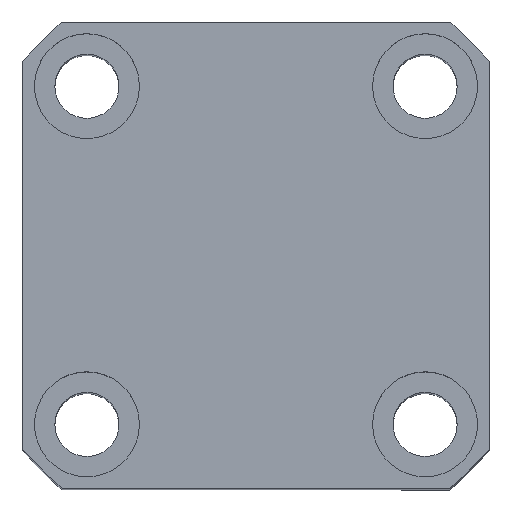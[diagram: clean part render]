
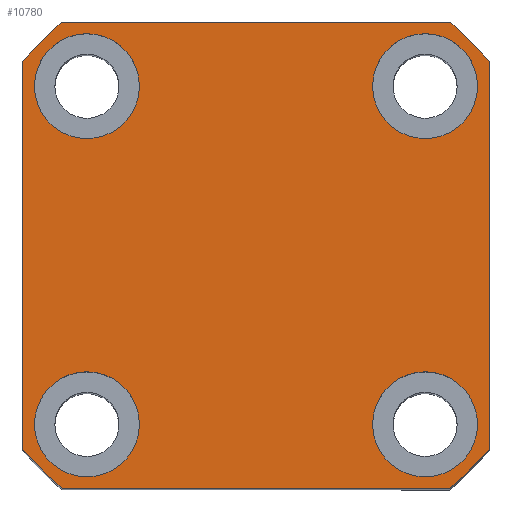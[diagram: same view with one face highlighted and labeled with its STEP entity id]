
A CAD part, top view. The second image highlights one B-rep face of the part: STEP entity #10780.
In plain terms, the highlighted planar face has unit normal (0, 0, 1).
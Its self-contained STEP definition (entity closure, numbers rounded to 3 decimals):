
#133 = EDGE_CURVE ( 'NONE', #10712, #574, #8048, .T. ) ;
#215 = CIRCLE ( 'NONE', #4218, 9. ) ;
#328 = CIRCLE ( 'NONE', #3765, 52. ) ;
#368 = DIRECTION ( 'NONE',  ( 1., 0., 0. ) ) ;
#400 = CARTESIAN_POINT ( 'NONE',  ( 40., -33.226, 77.5 ) ) ;
#574 = VERTEX_POINT ( 'NONE', #5104 ) ;
#701 = VERTEX_POINT ( 'NONE', #7870 ) ;
#705 = CARTESIAN_POINT ( 'NONE',  ( 29., -29., 77.5 ) ) ;
#924 = CARTESIAN_POINT ( 'NONE',  ( 0., 0., 77.5 ) ) ;
#933 = AXIS2_PLACEMENT_3D ( 'NONE', #2881, #4463, #368 ) ;
#1113 = DIRECTION ( 'NONE',  ( 1., 0., 0. ) ) ;
#1268 = CARTESIAN_POINT ( 'NONE',  ( -40., -33.226, 77.5 ) ) ;
#1318 = EDGE_CURVE ( 'NONE', #4930, #4481, #2215, .T. ) ;
#1336 = ORIENTED_EDGE ( 'NONE', *, *, #4928, .T. ) ;
#1431 = CARTESIAN_POINT ( 'NONE',  ( 29., 29., 77.5 ) ) ;
#1473 = FACE_BOUND ( 'NONE', #9057, .T. ) ;
#1510 = DIRECTION ( 'NONE',  ( 0., 0., 1. ) ) ;
#1541 = ORIENTED_EDGE ( 'NONE', *, *, #4944, .T. ) ;
#1659 = VERTEX_POINT ( 'NONE', #5605 ) ;
#1874 = CARTESIAN_POINT ( 'NONE',  ( -29., -29., 77.5 ) ) ;
#2130 = DIRECTION ( 'NONE',  ( 1., 0., 0. ) ) ;
#2170 = VECTOR ( 'NONE', #2299, 1000. ) ;
#2215 = CIRCLE ( 'NONE', #6570, 9. ) ;
#2269 = CARTESIAN_POINT ( 'NONE',  ( -38., -29., 77.5 ) ) ;
#2299 = DIRECTION ( 'NONE',  ( -1., 0., 0. ) ) ;
#2445 = CARTESIAN_POINT ( 'NONE',  ( -33.226, -40., 77.5 ) ) ;
#2463 = DIRECTION ( 'NONE',  ( 0., 1., 0. ) ) ;
#2527 = DIRECTION ( 'NONE',  ( 1., 0., 0. ) ) ;
#2579 = CIRCLE ( 'NONE', #933, 9. ) ;
#2604 = EDGE_CURVE ( 'NONE', #5055, #8831, #7339, .T. ) ;
#2612 = CARTESIAN_POINT ( 'NONE',  ( 29., -29., 77.5 ) ) ;
#2644 = DIRECTION ( 'NONE',  ( 0., 0., 1. ) ) ;
#2881 = CARTESIAN_POINT ( 'NONE',  ( -29., -29., 77.5 ) ) ;
#2906 = EDGE_CURVE ( 'NONE', #701, #8159, #6991, .T. ) ;
#2909 = CIRCLE ( 'NONE', #8554, 9. ) ;
#2925 = EDGE_CURVE ( 'NONE', #7277, #9696, #5180, .T. ) ;
#3036 = ORIENTED_EDGE ( 'NONE', *, *, #2906, .T. ) ;
#3281 = AXIS2_PLACEMENT_3D ( 'NONE', #705, #1510, #7256 ) ;
#3333 = ORIENTED_EDGE ( 'NONE', *, *, #4374, .T. ) ;
#3360 = DIRECTION ( 'NONE',  ( 0., 0., 1. ) ) ;
#3370 = ORIENTED_EDGE ( 'NONE', *, *, #7730, .F. ) ;
#3397 = PLANE ( 'NONE',  #9220 ) ;
#3408 = DIRECTION ( 'NONE',  ( 1., 0., 0. ) ) ;
#3520 = DIRECTION ( 'NONE',  ( 0., 0., 1. ) ) ;
#3597 = CIRCLE ( 'NONE', #4917, 52. ) ;
#3765 = AXIS2_PLACEMENT_3D ( 'NONE', #7507, #5047, #4967 ) ;
#3843 = VERTEX_POINT ( 'NONE', #5872 ) ;
#4130 = DIRECTION ( 'NONE',  ( 1., 0., 0. ) ) ;
#4176 = CARTESIAN_POINT ( 'NONE',  ( 40., 33.226, 77.5 ) ) ;
#4218 = AXIS2_PLACEMENT_3D ( 'NONE', #7354, #4826, #4130 ) ;
#4256 = CARTESIAN_POINT ( 'NONE',  ( 40., 33.226, 77.5 ) ) ;
#4301 = ORIENTED_EDGE ( 'NONE', *, *, #10420, .T. ) ;
#4304 = ORIENTED_EDGE ( 'NONE', *, *, #2604, .T. ) ;
#4346 = FACE_BOUND ( 'NONE', #7862, .T. ) ;
#4374 = EDGE_CURVE ( 'NONE', #9696, #701, #328, .T. ) ;
#4385 = DIRECTION ( 'NONE',  ( 1., 0., 0. ) ) ;
#4463 = DIRECTION ( 'NONE',  ( 0., 0., 1. ) ) ;
#4481 = VERTEX_POINT ( 'NONE', #7467 ) ;
#4530 = CIRCLE ( 'NONE', #5336, 9. ) ;
#4826 = DIRECTION ( 'NONE',  ( 0., 0., 1. ) ) ;
#4875 = AXIS2_PLACEMENT_3D ( 'NONE', #9587, #6313, #2130 ) ;
#4917 = AXIS2_PLACEMENT_3D ( 'NONE', #9138, #10142, #2527 ) ;
#4928 = EDGE_CURVE ( 'NONE', #8831, #7277, #7485, .T. ) ;
#4930 = VERTEX_POINT ( 'NONE', #9295 ) ;
#4944 = EDGE_CURVE ( 'NONE', #6484, #1659, #8821, .T. ) ;
#4967 = DIRECTION ( 'NONE',  ( 1., 0., 0. ) ) ;
#5047 = DIRECTION ( 'NONE',  ( 0., 0., 1. ) ) ;
#5055 = VERTEX_POINT ( 'NONE', #400 ) ;
#5094 = EDGE_CURVE ( 'NONE', #7526, #10846, #2579, .T. ) ;
#5104 = CARTESIAN_POINT ( 'NONE',  ( 38., -29., 77.5 ) ) ;
#5116 = CARTESIAN_POINT ( 'NONE',  ( -29., 29., 77.5 ) ) ;
#5117 = CARTESIAN_POINT ( 'NONE',  ( -20., -29., 77.5 ) ) ;
#5154 = DIRECTION ( 'NONE',  ( 0., 0., 1. ) ) ;
#5180 = LINE ( 'NONE', #6346, #2170 ) ;
#5226 = DIRECTION ( 'NONE',  ( 1., 0., 0. ) ) ;
#5336 = AXIS2_PLACEMENT_3D ( 'NONE', #5116, #5985, #4385 ) ;
#5430 = VECTOR ( 'NONE', #10505, 1000. ) ;
#5451 = ORIENTED_EDGE ( 'NONE', *, *, #5094, .F. ) ;
#5605 = CARTESIAN_POINT ( 'NONE',  ( 33.226, -40., 77.5 ) ) ;
#5872 = CARTESIAN_POINT ( 'NONE',  ( -20., 29., 77.5 ) ) ;
#5957 = AXIS2_PLACEMENT_3D ( 'NONE', #6098, #5154, #7621 ) ;
#5985 = DIRECTION ( 'NONE',  ( 0., 0., 1. ) ) ;
#6021 = CARTESIAN_POINT ( 'NONE',  ( -33.226, -40., 77.5 ) ) ;
#6098 = CARTESIAN_POINT ( 'NONE',  ( 0., 0., 77.5 ) ) ;
#6165 = EDGE_LOOP ( 'NONE', ( #10639, #9895 ) ) ;
#6313 = DIRECTION ( 'NONE',  ( 0., 0., 1. ) ) ;
#6346 = CARTESIAN_POINT ( 'NONE',  ( -33.226, 40., 77.5 ) ) ;
#6369 = EDGE_CURVE ( 'NONE', #4481, #4930, #9626, .T. ) ;
#6461 = ORIENTED_EDGE ( 'NONE', *, *, #8291, .T. ) ;
#6484 = VERTEX_POINT ( 'NONE', #2445 ) ;
#6543 = EDGE_CURVE ( 'NONE', #3843, #7770, #215, .T. ) ;
#6570 = AXIS2_PLACEMENT_3D ( 'NONE', #8497, #3520, #6861 ) ;
#6725 = EDGE_CURVE ( 'NONE', #7770, #3843, #4530, .T. ) ;
#6861 = DIRECTION ( 'NONE',  ( 1., 0., 0. ) ) ;
#6944 = AXIS2_PLACEMENT_3D ( 'NONE', #2612, #2644, #3408 ) ;
#6956 = FACE_BOUND ( 'NONE', #7276, .T. ) ;
#6968 = DIRECTION ( 'NONE',  ( 0., 0., 1. ) ) ;
#6991 = LINE ( 'NONE', #8941, #5430 ) ;
#7209 = FACE_OUTER_BOUND ( 'NONE', #10692, .T. ) ;
#7250 = DIRECTION ( 'NONE',  ( 0., 0., 1. ) ) ;
#7256 = DIRECTION ( 'NONE',  ( 1., 0., 0. ) ) ;
#7276 = EDGE_LOOP ( 'NONE', ( #10500, #5451 ) ) ;
#7277 = VERTEX_POINT ( 'NONE', #9382 ) ;
#7339 = LINE ( 'NONE', #4256, #10261 ) ;
#7354 = CARTESIAN_POINT ( 'NONE',  ( -29., 29., 77.5 ) ) ;
#7467 = CARTESIAN_POINT ( 'NONE',  ( 20., 29., 77.5 ) ) ;
#7485 = CIRCLE ( 'NONE', #5957, 52. ) ;
#7507 = CARTESIAN_POINT ( 'NONE',  ( 0., 0., 77.5 ) ) ;
#7526 = VERTEX_POINT ( 'NONE', #2269 ) ;
#7550 = DIRECTION ( 'NONE',  ( 1., 0., 0. ) ) ;
#7621 = DIRECTION ( 'NONE',  ( 1., 0., 0. ) ) ;
#7641 = ORIENTED_EDGE ( 'NONE', *, *, #133, .F. ) ;
#7730 = EDGE_CURVE ( 'NONE', #574, #10712, #10149, .T. ) ;
#7770 = VERTEX_POINT ( 'NONE', #8330 ) ;
#7860 = CARTESIAN_POINT ( 'NONE',  ( -33.226, 40., 77.5 ) ) ;
#7862 = EDGE_LOOP ( 'NONE', ( #3370, #7641 ) ) ;
#7870 = CARTESIAN_POINT ( 'NONE',  ( -40., 33.226, 77.5 ) ) ;
#8048 = CIRCLE ( 'NONE', #3281, 9. ) ;
#8159 = VERTEX_POINT ( 'NONE', #1268 ) ;
#8291 = EDGE_CURVE ( 'NONE', #1659, #5055, #3597, .T. ) ;
#8330 = CARTESIAN_POINT ( 'NONE',  ( -38., 29., 77.5 ) ) ;
#8497 = CARTESIAN_POINT ( 'NONE',  ( 29., 29., 77.5 ) ) ;
#8515 = CIRCLE ( 'NONE', #4875, 52. ) ;
#8554 = AXIS2_PLACEMENT_3D ( 'NONE', #1874, #6968, #1113 ) ;
#8594 = ORIENTED_EDGE ( 'NONE', *, *, #2925, .T. ) ;
#8617 = CARTESIAN_POINT ( 'NONE',  ( 20., -29., 77.5 ) ) ;
#8821 = LINE ( 'NONE', #6021, #10280 ) ;
#8831 = VERTEX_POINT ( 'NONE', #4176 ) ;
#8890 = AXIS2_PLACEMENT_3D ( 'NONE', #1431, #7250, #8938 ) ;
#8938 = DIRECTION ( 'NONE',  ( 1., 0., 0. ) ) ;
#8941 = CARTESIAN_POINT ( 'NONE',  ( -40., 33.226, 77.5 ) ) ;
#9057 = EDGE_LOOP ( 'NONE', ( #10679, #10581 ) ) ;
#9138 = CARTESIAN_POINT ( 'NONE',  ( 0., 0., 77.5 ) ) ;
#9220 = AXIS2_PLACEMENT_3D ( 'NONE', #924, #3360, #7550 ) ;
#9295 = CARTESIAN_POINT ( 'NONE',  ( 38., 29., 77.5 ) ) ;
#9382 = CARTESIAN_POINT ( 'NONE',  ( 33.226, 40., 77.5 ) ) ;
#9459 = FACE_BOUND ( 'NONE', #6165, .T. ) ;
#9535 = EDGE_CURVE ( 'NONE', #10846, #7526, #2909, .T. ) ;
#9587 = CARTESIAN_POINT ( 'NONE',  ( 0., 0., 77.5 ) ) ;
#9626 = CIRCLE ( 'NONE', #8890, 9. ) ;
#9696 = VERTEX_POINT ( 'NONE', #7860 ) ;
#9895 = ORIENTED_EDGE ( 'NONE', *, *, #6725, .F. ) ;
#10142 = DIRECTION ( 'NONE',  ( 0., 0., 1. ) ) ;
#10149 = CIRCLE ( 'NONE', #6944, 9. ) ;
#10261 = VECTOR ( 'NONE', #2463, 1000. ) ;
#10280 = VECTOR ( 'NONE', #5226, 1000. ) ;
#10420 = EDGE_CURVE ( 'NONE', #8159, #6484, #8515, .T. ) ;
#10500 = ORIENTED_EDGE ( 'NONE', *, *, #9535, .F. ) ;
#10505 = DIRECTION ( 'NONE',  ( 0., -1., 0. ) ) ;
#10581 = ORIENTED_EDGE ( 'NONE', *, *, #6369, .F. ) ;
#10639 = ORIENTED_EDGE ( 'NONE', *, *, #6543, .F. ) ;
#10679 = ORIENTED_EDGE ( 'NONE', *, *, #1318, .F. ) ;
#10692 = EDGE_LOOP ( 'NONE', ( #3333, #3036, #4301, #1541, #6461, #4304, #1336, #8594 ) ) ;
#10712 = VERTEX_POINT ( 'NONE', #8617 ) ;
#10780 = ADVANCED_FACE ( 'NONE', ( #4346, #6956, #9459, #1473, #7209 ), #3397, .T. ) ;
#10846 = VERTEX_POINT ( 'NONE', #5117 ) ;
